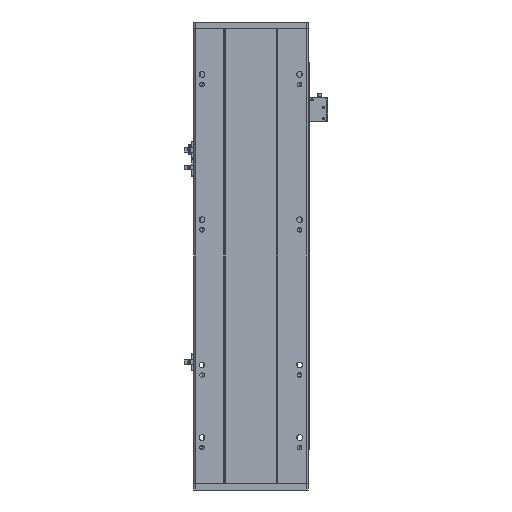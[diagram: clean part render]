
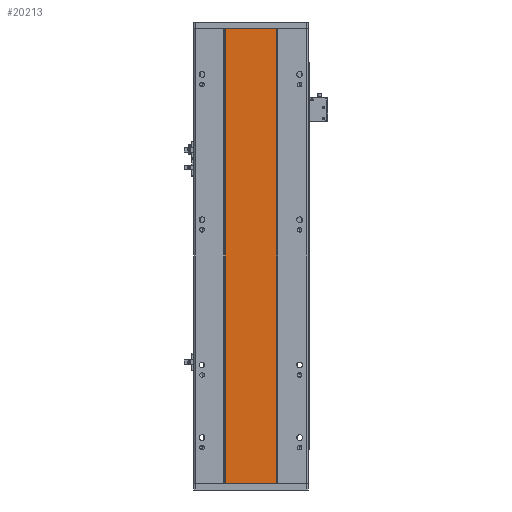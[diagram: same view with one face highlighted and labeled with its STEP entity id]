
A CAD part, front view. The second image highlights one B-rep face of the part: STEP entity #20213.
In plain terms, the highlighted planar face has unit normal (0, -1, 0).
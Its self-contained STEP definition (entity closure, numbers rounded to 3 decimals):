
#518 = DIRECTION ( 'NONE',  ( 1., 0., 0. ) ) ;
#2012 = ORIENTED_EDGE ( 'NONE', *, *, #8857, .T. ) ;
#2241 = CARTESIAN_POINT ( 'NONE',  ( 205.288, 16.9, 676. ) ) ;
#4015 = DIRECTION ( 'NONE',  ( 0., 0., -1. ) ) ;
#4369 = DIRECTION ( 'NONE',  ( -1., 0., 0. ) ) ;
#4558 = DIRECTION ( 'NONE',  ( 0., 0., -1. ) ) ;
#4761 = CARTESIAN_POINT ( 'NONE',  ( 129.288, 16.9, 676. ) ) ;
#4794 = LINE ( 'NONE', #15996, #28986 ) ;
#4837 = VERTEX_POINT ( 'NONE', #4761 ) ;
#4946 = CARTESIAN_POINT ( 'NONE',  ( 205.288, 16.9, 676. ) ) ;
#6489 = EDGE_CURVE ( 'NONE', #4837, #10007, #9624, .T. ) ;
#7996 = EDGE_LOOP ( 'NONE', ( #2012, #9811, #11220, #8147 ) ) ;
#8147 = ORIENTED_EDGE ( 'NONE', *, *, #6489, .T. ) ;
#8601 = CARTESIAN_POINT ( 'NONE',  ( 129.288, 16.9, 676. ) ) ;
#8857 = EDGE_CURVE ( 'NONE', #10007, #22244, #4794, .T. ) ;
#9624 = LINE ( 'NONE', #8601, #22556 ) ;
#9811 = ORIENTED_EDGE ( 'NONE', *, *, #24519, .F. ) ;
#10007 = VERTEX_POINT ( 'NONE', #16424 ) ;
#11220 = ORIENTED_EDGE ( 'NONE', *, *, #21551, .F. ) ;
#11936 = AXIS2_PLACEMENT_3D ( 'NONE', #15832, #24523, #4369 ) ;
#15552 = PLANE ( 'NONE',  #11936 ) ;
#15832 = CARTESIAN_POINT ( 'NONE',  ( 205.288, 16.9, 676. ) ) ;
#15996 = CARTESIAN_POINT ( 'NONE',  ( 205.288, 16.9, 0. ) ) ;
#16424 = CARTESIAN_POINT ( 'NONE',  ( 129.288, 16.9, 0. ) ) ;
#16862 = LINE ( 'NONE', #4946, #21713 ) ;
#17843 = DIRECTION ( 'NONE',  ( 1., 0., 0. ) ) ;
#20213 = ADVANCED_FACE ( 'NONE', ( #24079 ), #15552, .F. ) ;
#21551 = EDGE_CURVE ( 'NONE', #4837, #26102, #22642, .T. ) ;
#21713 = VECTOR ( 'NONE', #4558, 1000. ) ;
#22244 = VERTEX_POINT ( 'NONE', #23433 ) ;
#22556 = VECTOR ( 'NONE', #4015, 1000. ) ;
#22642 = LINE ( 'NONE', #25050, #23332 ) ;
#23332 = VECTOR ( 'NONE', #518, 1000. ) ;
#23433 = CARTESIAN_POINT ( 'NONE',  ( 205.288, 16.9, 0. ) ) ;
#24079 = FACE_OUTER_BOUND ( 'NONE', #7996, .T. ) ;
#24519 = EDGE_CURVE ( 'NONE', #26102, #22244, #16862, .T. ) ;
#24523 = DIRECTION ( 'NONE',  ( 0., 1., 0. ) ) ;
#25050 = CARTESIAN_POINT ( 'NONE',  ( 129.288, 16.9, 676. ) ) ;
#26102 = VERTEX_POINT ( 'NONE', #2241 ) ;
#28986 = VECTOR ( 'NONE', #17843, 1000. ) ;
